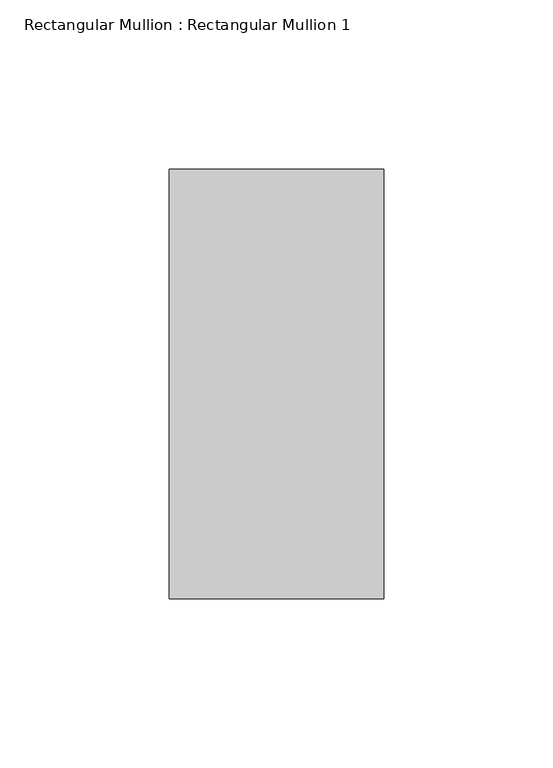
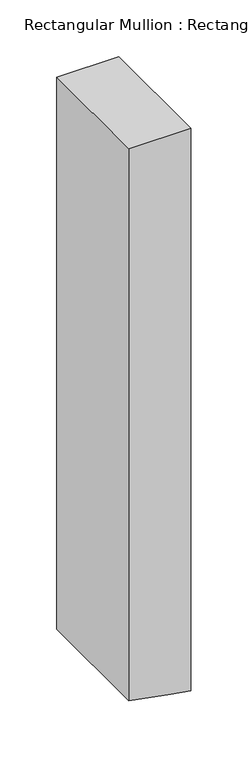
"""IFC4 building model written with IfcOpenShell, lengths in millimetres: member geometry, Rectangular Mullion : Rectangular Mullion 1."""

from ifc_helpers import new_model, si_unit, frame, origin, place, context, project, spatial, polyline, outline, extrude, source, transform, mapped, element, save


def rectangular_mullion_rectangular_mullion_1_e82f553c(model_context):
    return source(origin(), model_context, "Body", "SweptSolid", [
        extrude(outline(polyline([(0.0, 31.75), (0.0, -31.75), (-595.0416809, -31.75), (-602.5843601, 11.0266593), (-606.2384442, 31.75), (0.0, 31.75)])), frame((0.0, -63.5, 0.0), z_axis=(0.0, 1.0, 0.0), x_axis=(0.0, 0.0, 1.0)), (0.0, 0.0, 1.0), 127.0),
    ])


if __name__ == "__main__":
    model = new_model("IFC4")
    model_context = context("Model", 3, world=origin())
    ifc_project = project(units=[si_unit("LENGTHUNIT", "METRE", prefix="MILLI")], contexts=[model_context])
    site = spatial("IfcSite", under=ifc_project)
    building = spatial("IfcBuilding", under=site)
    placement = place(None, origin())
    rectangular_mullion_rectangular_mullion_1_shape = rectangular_mullion_rectangular_mullion_1_e82f553c(model_context)
    element("IfcMember", 1, ObjectType="Rectangular Mullion : Rectangular Mullion 1", at=placement, inside=building, context=model_context, shape_type="MappedRepresentation", body=[
        mapped(rectangular_mullion_rectangular_mullion_1_shape, transform((0.0, 0.0, 0.0), x_axis=(1.0, 0.0, 0.0), y_axis=(0.0, 1.0, 0.0), z_axis=(0.0, 0.0, 1.0))),
    ])
    save(model, "model.ifc")
